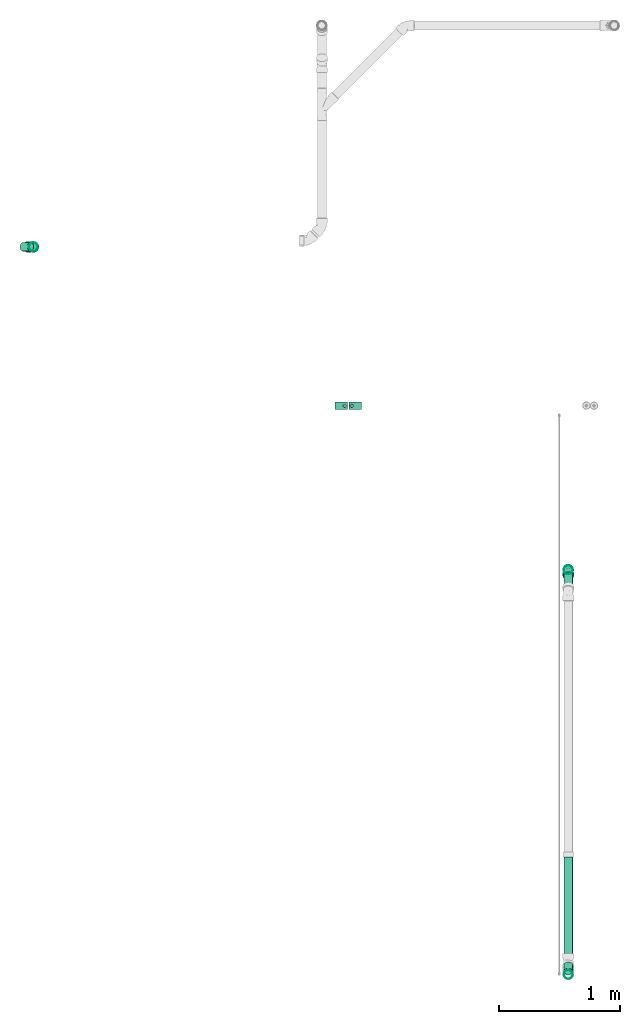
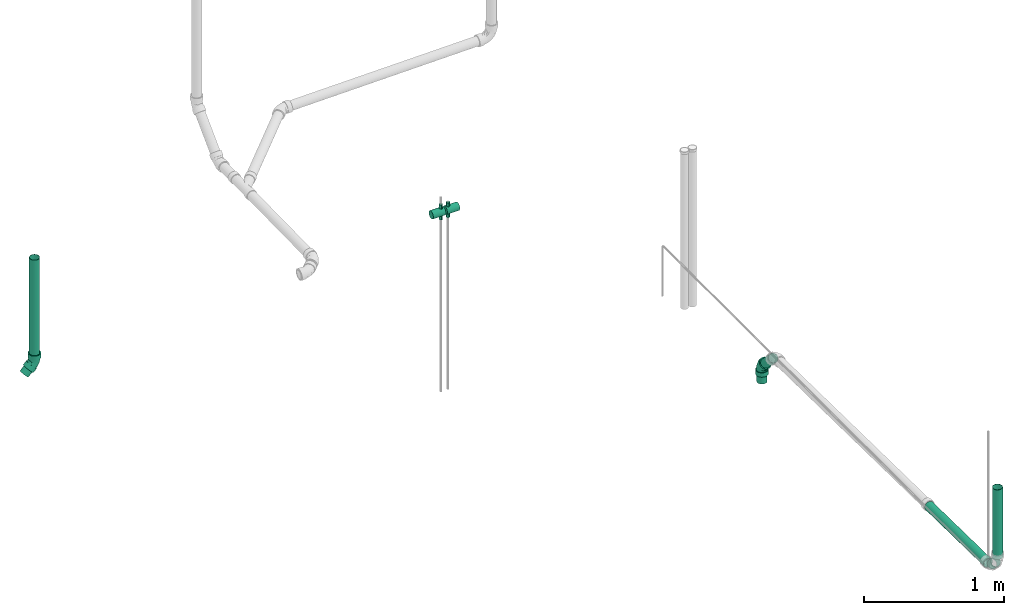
# One storey, part 7 of 18: 7 flow segments, 2 flow controllers, 2 flow fittings.
"""IFC2X3 building model written with IfcOpenShell, lengths in millimetres."""

from ifc_helpers import new_model, entity, si_unit, converted_unit, derived_unit, direction, frame, origin_with_axes, origin_2d_with_axis, place, context, subcontext, project, spatial, hollow_circle, extrude, open_shell, surface_model, source, transform, mapped, type_object, element, save


model = new_model("IFC2X3")

# Units and contexts
model_context = context("Model", 3, precision=0.01, world=frame((0.0, 4.29681676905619e-09, 0.0)), true_north=direction((4.01073788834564e-13, 1.0)))
plan_context = context("Plan", 3, precision=0.01, world=frame((0.0, 4.29681676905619e-09, 0.0)), true_north=direction((4.01073788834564e-13, 1.0)))
body_context = subcontext(model_context, "Body", "Model", "MODEL_VIEW")
ifc_project = project(units=[converted_unit("PLANEANGLEUNIT", "DEGREE", entity("IfcPositiveLengthMeasure", 0.0174532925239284), si_unit("PLANEANGLEUNIT", "RADIAN"), dimensions=[0, 0, 0, 0, 0, 0, 0]), si_unit("AREAUNIT", "SQUARE_METRE"), si_unit("LENGTHUNIT", "METRE", prefix="MILLI"), si_unit("MASSUNIT", "GRAM", prefix="KILO"), si_unit("POWERUNIT", "WATT"), si_unit("PRESSUREUNIT", "PASCAL", prefix="KILO"), si_unit("FORCEUNIT", "NEWTON", prefix="KILO"), si_unit("ELECTRICVOLTAGEUNIT", "VOLT"), si_unit("ELECTRICCURRENTUNIT", "AMPERE"), si_unit("THERMODYNAMICTEMPERATUREUNIT", "DEGREE_CELSIUS"), si_unit("TIMEUNIT", "SECOND"), si_unit("VOLUMEUNIT", "CUBIC_METRE"), derived_unit("LINEARVELOCITYUNIT", [(si_unit("LENGTHUNIT", "METRE"), 1), (si_unit("TIMEUNIT", "SECOND"), -1)]), derived_unit("VOLUMETRICFLOWRATEUNIT", [(si_unit("VOLUMEUNIT", "CUBIC_METRE"), 1), (si_unit("TIMEUNIT", "SECOND"), -1)]), derived_unit("THERMALTRANSMITTANCEUNIT", [(si_unit("POWERUNIT", "WATT"), 1), (si_unit("THERMODYNAMICTEMPERATUREUNIT", "KELVIN"), -1), (si_unit("AREAUNIT", "SQUARE_METRE"), -1)]), derived_unit("SOUNDPRESSUREUNIT", [(si_unit("PRESSUREUNIT", "PASCAL"), 1)])], contexts=[model_context, plan_context])

# Site, building, storey
site_placement = place(None, frame((0.0, -4.29681676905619e-09, 0.0), z_axis=(0.0, 0.0, 1.0), x_axis=(1.0, 0.0, 0.0)))
site = spatial("IfcSite", under=ifc_project, at=site_placement, Name="ENGM", CompositionType="ELEMENT")
building_placement = place(site_placement, frame((0.0, 4.29681676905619e-09, 0.0), z_axis=(0.0, 0.0, 1.0), x_axis=(1.0, 0.0, 0.0)))
building = spatial("IfcBuilding", under=site, at=building_placement, Name="TI", CompositionType="ELEMENT")
storey_placement = place(building_placement, frame((0.0, 0.0, 204000.0), z_axis=(0.0, 0.0, 1.0), x_axis=(1.0, 0.0, 0.0)))
storey = spatial("IfcBuildingStorey", under=building, at=storey_placement, Name="Nivå D", CompositionType="ELEMENT", Elevation=204000.0)

# Flow controllers
flow_meter_type = type_object("IfcFlowMeterType", Name="Water-flow-meter-DN20", PredefinedType="FLOWMETER")
shared_shape_1 = source(origin_with_axes(), body_context, "Body", "SurfaceModel", [
    surface_model("IfcShellBasedSurfaceModel", [(-16.25, 28.14582, 80.0), (0.0, 32.5, 80.0), (-8.41162, 31.39259, 80.0), (-31.39259, 8.41162, 80.0), (-22.98097, 22.98097, 80.0), (-28.14582, 16.25, 80.0), (16.25, 28.14582, 80.0), (8.41162, 31.39259, 80.0), (22.98097, 22.98097, 80.0), (31.39259, 8.41162, 80.0), (28.14582, 16.25, 80.0), (-16.25, -28.14582, 80.0), (-28.14582, -16.25, 80.0), (-22.98097, -22.98097, 80.0), (-28.14582, -16.25, -23.0), (-16.25, -28.14582, -23.0), (-22.98097, -22.98097, -23.0), (-22.98097, 22.98097, -23.0), (-31.39259, 8.41162, -23.0), (-28.14582, 16.25, -23.0), (16.25, 28.14582, -23.0), (22.98097, 22.98097, -23.0), (8.41162, 31.39259, -23.0), (0.0, 32.5, -23.0), (-8.41162, 31.39259, -23.0), (-16.25, 28.14582, -23.0), (-8.41162, -31.39259, -23.0), (-8.41162, -31.39259, 80.0), (0.0, -32.5, -23.0), (0.0, -32.5, 80.0), (8.41162, -31.39259, 80.0), (8.41162, -31.39259, -23.0), (16.25, -28.14582, -23.0), (22.98097, -22.98097, -23.0), (16.25, -28.14582, 80.0), (28.14582, -16.25, -23.0), (28.14582, -16.25, 80.0), (22.98097, -22.98097, 80.0), (65.0, 3.36465, -12.55704), (65.0, -3.36465, -12.55704), (65.0, 0.0, -13.0), (65.0, 9.19239, -9.19239), (65.0, 6.5, -11.25833), (65.0, 11.25833, -6.5), (65.0, -13.0, 0.0), (65.0, 12.55704, -3.36465), (65.0, -9.19239, -9.19239), (65.0, -6.5, -11.25833), (65.0, -11.25833, -6.5), (65.0, -12.55704, -3.36465), (65.0, 13.0, 0.0), (65.0, 12.55704, 3.36465), (65.0, -3.36465, 12.55704), (65.0, 3.36465, 12.55704), (65.0, 11.25833, 6.5), (65.0, 9.19239, 9.19239), (65.0, 6.5, 11.25833), (65.0, 0.0, 13.0), (65.0, -11.25833, 6.5), (65.0, -9.19239, 9.19239), (65.0, -12.55704, 3.36465), (65.0, -6.5, 11.25833), (-65.0, 0.0, 13.0), (-65.0, 3.36465, 12.55704), (-65.0, 6.5, 11.25833), (-65.0, -3.36465, 12.55704), (-65.0, 9.19239, 9.19239), (-65.0, 11.25833, 6.5), (-65.0, 12.55704, 3.36465), (-65.0, -9.19239, 9.19239), (-65.0, -6.5, 11.25833), (-65.0, -11.25833, 6.5), (-65.0, -13.0, 0.0), (-65.0, -12.55704, 3.36465), (-65.0, -11.25833, -6.5), (-65.0, 13.0, 0.0), (-65.0, 12.55704, -3.36465), (-65.0, 11.25833, -6.5), (-65.0, -3.36465, -12.55704), (-65.0, 6.5, -11.25833), (-65.0, 3.36465, -12.55704), (-65.0, 9.19239, -9.19239), (-65.0, -9.19239, -9.19239), (-65.0, -12.55704, -3.36465), (-65.0, -6.5, -11.25833), (-65.0, 0.0, -13.0), (-32.5, 0.0, 80.0), (-31.39259, -8.41162, 80.0), (31.39259, -8.41162, 80.0), (32.5, 0.0, 80.0), (28.14582, 16.25, -23.0), (31.39259, 8.41162, -23.0), (-32.5, 0.0, -23.0), (31.39259, -8.41162, -23.0), (-31.39259, -8.41162, -23.0), (32.5, 0.0, -23.0)], [open_shell([[[0, 1, 2]], [[3, 4, 5]], [[1, 6, 7]], [[8, 9, 10]], [[11, 12, 13]], [[14, 15, 16]], [[17, 18, 19]], [[20, 8, 21]], [[22, 7, 6]], [[23, 1, 7]], [[2, 24, 25]], [[17, 0, 25]], [[24, 2, 1]], [[25, 0, 2]], [[19, 5, 4]], [[24, 1, 23]], [[26, 27, 11]], [[28, 29, 27]], [[30, 31, 32]], [[33, 34, 32]], [[31, 30, 29]], [[32, 34, 30]], [[35, 36, 37]], [[31, 29, 28]], [[38, 39, 40]], [[41, 38, 42]], [[39, 38, 43]], [[43, 38, 41]], [[44, 43, 45]], [[39, 46, 47]], [[46, 39, 48]], [[48, 44, 49]], [[48, 39, 43]], [[43, 44, 48]], [[45, 50, 44]], [[51, 52, 50]], [[53, 51, 54]], [[55, 56, 53]], [[55, 53, 54]], [[57, 51, 53]], [[58, 52, 59]], [[60, 44, 58]], [[59, 52, 61]], [[44, 52, 58]], [[57, 52, 51]], [[44, 50, 52]], [[62, 63, 64]], [[65, 62, 64]], [[66, 67, 68]], [[64, 66, 65]], [[68, 65, 66]], [[65, 69, 70]], [[69, 65, 71]], [[71, 72, 73]], [[71, 65, 68]], [[71, 74, 72]], [[71, 68, 75]], [[75, 76, 77]], [[78, 75, 77]], [[79, 80, 77]], [[79, 77, 81]], [[78, 77, 80]], [[74, 78, 82]], [[83, 72, 74]], [[82, 78, 84]], [[71, 78, 74]], [[85, 78, 80]], [[71, 75, 78]], [[49, 83, 74]], [[82, 48, 74]], [[47, 84, 78]], [[82, 84, 46]], [[39, 78, 85]], [[83, 44, 72]], [[83, 49, 44]], [[74, 48, 49]], [[82, 46, 48]], [[47, 46, 84]], [[78, 39, 47]], [[85, 40, 39]], [[38, 80, 79]], [[81, 42, 79]], [[43, 77, 76]], [[81, 77, 41]], [[45, 76, 75]], [[80, 38, 40]], [[79, 42, 38]], [[81, 41, 42]], [[77, 43, 41]], [[45, 43, 76]], [[75, 50, 45]], [[80, 40, 85]], [[54, 67, 66]], [[56, 64, 63]], [[66, 64, 55]], [[53, 63, 62]], [[50, 68, 51]], [[68, 50, 75]], [[51, 68, 54]], [[68, 67, 54]], [[66, 55, 54]], [[56, 55, 64]], [[63, 53, 56]], [[62, 57, 53]], [[52, 65, 70]], [[69, 61, 70]], [[58, 71, 73]], [[69, 71, 59]], [[60, 73, 72]], [[65, 52, 57]], [[70, 61, 52]], [[69, 59, 61]], [[71, 58, 59]], [[60, 58, 73]], [[72, 44, 60]], [[65, 57, 62]], [[30, 27, 29]], [[36, 30, 34]], [[27, 30, 36]], [[36, 34, 37]], [[9, 11, 36]], [[11, 27, 36]], [[12, 86, 87]], [[3, 86, 12]], [[12, 11, 3]], [[9, 36, 88]], [[3, 11, 9]], [[3, 9, 6]], [[6, 9, 8]], [[4, 3, 1]], [[1, 0, 4]], [[3, 6, 1]], [[9, 88, 89]], [[23, 22, 20]], [[23, 20, 90]], [[90, 91, 23]], [[90, 20, 21]], [[23, 91, 18]], [[23, 17, 25]], [[25, 24, 23]], [[18, 17, 23]], [[18, 14, 92]], [[18, 91, 15]], [[15, 91, 93]], [[35, 26, 93]], [[32, 31, 35]], [[32, 35, 33]], [[31, 26, 35]], [[94, 92, 14]], [[14, 18, 15]], [[93, 26, 15]], [[31, 28, 26]], [[95, 93, 91]], [[87, 94, 14]], [[16, 12, 14]], [[11, 15, 26]], [[16, 15, 13]], [[27, 26, 28]], [[94, 86, 92]], [[94, 87, 86]], [[14, 12, 87]], [[16, 13, 12]], [[11, 13, 15]], [[36, 35, 93]], [[33, 35, 37]], [[88, 93, 95]], [[33, 37, 34]], [[88, 36, 93]], [[95, 89, 88]], [[95, 91, 9]], [[6, 20, 22]], [[7, 22, 23]], [[9, 90, 10]], [[9, 89, 95]], [[90, 8, 10]], [[90, 21, 8]], [[8, 20, 6]], [[91, 90, 9]], [[5, 19, 18]], [[17, 19, 4]], [[3, 18, 92]], [[17, 4, 0]], [[3, 5, 18]], [[92, 86, 3]]])]),
])
for number, where, z_axis, x_axis, name in (
    (1, (591223.82673, 574995.92031, 7210.24650000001), (1.0, 0.0, 0.0), (0.0, 0.0, 1.0), "Water-flow-meter-DN20"),
    (2, (591165.27303, 574995.92031, 7210.24650000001), (-1.0, 0.0, 0.0), (0.0, 0.0, 1.0), "Water-flow-meter-DN20"),
):
    element("IfcFlowController", number, at=place(storey_placement, frame(where, z_axis=z_axis, x_axis=x_axis)), inside=storey, type_object=flow_meter_type, Name=name, context=body_context, shape_type="MappedRepresentation", body=[
        mapped(shared_shape_1, transform((0.0, 0.0, 0.0), scale=1.0)),
    ])

# Flow fittings
pipe_fitting_type = type_object("IfcPipeFittingType", Name="magi_sewer_bend_001", PredefinedType="BEND")
shared_shape_2 = source(origin_with_axes(), body_context, "Body", "SurfaceModel", [
    surface_model("IfcShellBasedSurfaceModel", [(-71.67262, -44.67407, -11.97038), (-71.67262, -11.97038, -44.67407), (-71.67262, -23.125, -40.05367), (-71.67262, -32.70369, -32.70369), (-71.67262, 0.0, -46.25), (-71.67262, -40.05367, -23.125), (-71.67262, -46.25, 0.0), (-71.67262, 11.97038, -44.67407), (-71.67262, 32.70369, -32.70369), (-71.67262, 23.125, -40.05367), (-71.67262, 44.67407, -11.97038), (-71.67262, 40.05367, -23.125), (-71.67262, -32.70369, 32.70369), (-71.67262, -44.67407, 11.97038), (-71.67262, -40.05367, 23.125), (-71.67262, 40.05367, 23.125), (-71.67262, -23.125, 40.05367), (-71.67262, -11.97038, 44.67407), (-71.67262, 0.0, 46.25), (-71.67262, 11.97038, 44.67407), (-71.67262, 44.67407, 11.97038), (-71.67262, 46.25, 0.0), (-71.67262, 23.125, 40.05367), (-71.67262, 32.70369, 32.70369), (-34.17262, 0.0, 46.25), (-34.17262, -11.97038, 44.67407), (-34.17262, -23.125, 40.05367), (-34.17262, -32.70369, 32.70369), (-34.17262, -40.05367, 23.125), (-34.17262, -44.67407, 11.97038), (-34.17262, 40.05367, 23.125), (-34.17262, -44.67407, -11.97038), (-34.17262, 23.125, 40.05367), (-34.17262, 32.70369, 32.70369), (-34.17262, 11.97038, 44.67407), (-34.17262, 44.67407, 11.97038), (-34.17262, 44.67407, -11.97038), (-34.17262, 46.25, 0.0), (-34.17262, -32.70369, -32.70369), (-34.17262, -40.05367, -23.125), (-34.17262, -23.125, -40.05367), (-34.17262, -11.97038, -44.67407), (-34.17262, 11.97038, -44.67407), (-34.17262, 32.70369, -32.70369), (-34.17262, 40.05367, -23.125), (-34.17262, 23.125, -40.05367), (-34.17262, 0.0, -46.25), (-34.17262, -46.25, 0.0), (22.35797, 79.00242, 23.125), (17.97651, 83.38388, 0.0), (19.09086, 82.26953, 11.97038), (34.32835, 67.03204, 40.05367), (27.55519, 73.8052, 32.70369), (42.21586, 59.14453, -44.67407), (67.03204, 34.32835, -40.05367), (42.21586, 59.14453, 44.67407), (19.09086, 82.26953, -11.97038), (27.55519, 73.8052, -32.70369), (22.35797, 79.00242, -23.125), (34.32835, 67.03204, -40.05367), (50.6802, 50.6802, 46.25), (59.14453, 42.21586, 44.67407), (67.03204, 34.32835, 40.05367), (73.8052, 27.55519, 32.70369), (79.00242, 22.35797, 23.125), (82.26953, 19.09086, 11.97038), (83.38388, 17.97651, 0.0), (59.14453, 42.21586, -44.67407), (50.6802, 50.6802, -46.25), (73.8052, 27.55519, -32.70369), (82.26953, 19.09086, -11.97038), (79.00242, 22.35797, -23.125), (40.51554, 7.81185, -40.05367), (56.86738, -8.54, 0.0), (55.75303, -7.42565, 11.97038), (52.48592, -4.15853, 23.125), (47.28869, 1.03869, 32.70369), (40.51554, 7.81185, 40.05367), (32.62803, 15.69935, 44.67407), (15.69935, 32.62803, 44.67407), (52.48592, -4.15853, -23.125), (47.28869, 1.03869, -32.70369), (55.75303, -7.42565, -11.97038), (32.62803, 15.69935, -44.67407), (15.69935, 32.62803, -44.67407), (24.16369, 24.16369, -46.25), (-7.42565, 55.75303, 11.97038), (7.81185, 40.51554, 40.05367), (-4.15853, 52.48592, 23.125), (1.03869, 47.28869, 32.70369), (-7.42565, 55.75303, -11.97038), (1.03869, 47.28869, -32.70369), (7.81185, 40.51554, -40.05367), (-4.15853, 52.48592, -23.125), (-8.54, 56.86738, 0.0), (24.16369, 24.16369, 46.25), (-34.17262, 10.67629, -39.84444), (-34.17262, 0.0, -41.25), (-34.17262, 35.72355, -20.625), (-34.17262, 20.625, -35.72355), (-34.17262, -10.67629, -39.84444), (-34.17262, 29.16816, -29.16816), (-34.17262, 39.84444, -10.67629), (-34.17262, -29.16816, -29.16816), (-34.17262, -35.72355, -20.625), (-34.17262, -20.625, -35.72355), (-34.17262, -39.84444, -10.67629), (-34.17262, -41.25, 0.0), (-34.17262, -39.84444, 10.67629), (-34.17262, 41.25, 0.0), (-34.17262, 35.72355, 20.625), (-34.17262, 39.84444, 10.67629), (-34.17262, 10.67629, 39.84444), (-34.17262, 20.625, 35.72355), (-34.17262, 29.16816, 29.16816), (-34.17262, -35.72355, 20.625), (-34.17262, -29.16816, 29.16816), (-34.17262, -10.67629, 39.84444), (-34.17262, -20.625, 35.72355), (-34.17262, 0.0, 41.25), (16.61442, 31.71296, -39.84444), (52.33797, -4.01058, -10.67629), (24.16369, 24.16369, -41.25), (9.57961, 38.74777, -35.72355), (3.53869, 44.78869, -29.16816), (-1.09667, 49.42405, -20.625), (-4.01058, 52.33797, -10.67629), (52.33797, -4.01058, 10.67629), (38.74777, 9.57961, -35.72355), (49.42405, -1.09667, -20.625), (44.78869, 3.53869, -29.16816), (31.71296, 16.61442, -39.84444), (53.33185, -5.00446, 0.0), (3.53869, 44.78869, 29.16816), (-5.00446, 53.33185, 0.0), (-4.01058, 52.33797, 10.67629), (-1.09667, 49.42405, 20.625), (9.57961, 38.74777, 35.72355), (16.61442, 31.71296, 39.84444), (24.16369, 24.16369, 41.25), (44.78869, 3.53869, 29.16816), (49.42405, -1.09667, 20.625), (31.71296, 16.61442, 39.84444), (38.74777, 9.57961, 35.72355), (10.50612, -25.36402, 22.98738), (-9.12592, -23.31355, 31.83011), (-13.32012, -31.54844, 24.15346), (-13.78242, -38.56558, 0.0), (-2.14376, -37.03332, 0.0), (-8.80455, -38.00287, 7.04384), (31.72686, -12.88936, 24.15346), (-16.3448, -15.12603, 37.70038), (4.23545, -10.22528, 37.18064), (1.2244, 24.79863, 38.50101), (7.45704, 19.5259, 40.65003), (-12.31128, -3.97165, 40.70351), (-3.92344, 9.47201, 41.10505), (-20.66814, 5.71607, 40.99967), (-11.71714, 28.28769, 33.67672), (-18.19114, 34.59421, 26.03152), (22.25324, 0.8618, 37.70038), (-15.84955, 17.16525, 38.56294), (15.91914, -26.99759, 16.25694), (-7.39626, -35.6875, 14.32507), (12.80708, -30.91902, 8.96571), (-16.99315, 41.02508, 16.94728), (33.09785, -20.64633, 7.04384), (37.01562, -17.52434, 0.0), (-16.52245, 44.20054, 8.66711), (30.46482, -20.00493, 14.32507), (11.51377, 5.89701, 40.70351), (22.93817, -10.03217, 31.83011), (-18.38693, 44.38997, 0.0), (6.92373, -16.71536, 32.89459), (12.77931, -30.85198, 0.0), (27.70238, -24.67064, 0.0), (-12.31128, -3.97165, -40.70351), (-8.80455, -38.00287, -7.04384), (12.80708, -30.91902, -8.96571), (11.51377, 5.89701, -40.70351), (-18.40106, 16.66949, -38.50101), (-19.07982, 8.53397, -40.65003), (-11.59873, 37.32487, -26.03152), (22.93817, -10.03217, -31.83011), (-16.99315, 41.02508, -16.94728), (30.46482, -20.00492, -14.32507), (-19.57136, 42.93764, -8.66711), (-0.93034, 23.34499, -38.56294), (-7.39626, -35.6875, -14.32507), (-11.71715, 28.28769, -33.67672), (-13.32012, -31.54844, -24.15346), (-9.12592, -23.31355, -31.83011), (6.92373, -16.71536, -32.89459), (10.50612, -25.36402, -22.98737), (-16.3448, -15.12603, -37.70038), (22.25324, 0.8618, -37.70038), (4.23545, -10.22528, -37.18064), (33.09785, -20.64633, -7.04384), (10.57272, 18.65645, -40.99967), (7.83365, -30.34671, -16.25694), (31.72686, -12.88936, -24.15346), (-3.92344, 9.47201, -41.10505)], [open_shell([[[0, 1, 2]], [[0, 2, 3]], [[1, 0, 4]], [[0, 3, 5]], [[4, 0, 6]], [[7, 8, 9]], [[8, 7, 4]], [[8, 10, 11]], [[10, 8, 4]], [[4, 6, 10]], [[6, 12, 10]], [[13, 14, 12]], [[10, 12, 15]], [[16, 17, 18]], [[16, 18, 12]], [[19, 12, 18]], [[10, 20, 21]], [[15, 20, 10]], [[15, 22, 23]], [[22, 15, 19]], [[12, 19, 15]], [[6, 13, 12]], [[24, 25, 26]], [[24, 26, 27]], [[27, 28, 29]], [[24, 27, 30]], [[27, 31, 30]], [[32, 30, 33]], [[30, 32, 34]], [[35, 36, 37]], [[30, 34, 24]], [[35, 30, 36]], [[27, 29, 31]], [[36, 30, 31]], [[38, 31, 39]], [[40, 41, 31]], [[40, 31, 38]], [[42, 31, 41]], [[36, 43, 44]], [[36, 31, 43]], [[43, 42, 45]], [[31, 42, 43]], [[41, 46, 42]], [[31, 29, 47]], [[36, 10, 37]], [[44, 11, 36]], [[9, 43, 45]], [[44, 43, 8]], [[7, 45, 42]], [[36, 11, 10]], [[10, 21, 37]], [[7, 9, 45]], [[8, 43, 9]], [[8, 11, 44]], [[4, 7, 42]], [[42, 46, 4]], [[46, 41, 1]], [[5, 39, 31]], [[39, 3, 38]], [[0, 31, 47]], [[1, 40, 2]], [[40, 1, 41]], [[40, 38, 2]], [[38, 3, 2]], [[39, 5, 3]], [[0, 5, 31]], [[47, 6, 0]], [[46, 1, 4]], [[29, 13, 47]], [[28, 14, 29]], [[16, 27, 26]], [[28, 27, 12]], [[17, 26, 25]], [[29, 14, 13]], [[13, 6, 47]], [[17, 16, 26]], [[12, 27, 16]], [[12, 14, 28]], [[18, 17, 25]], [[25, 24, 18]], [[33, 22, 32]], [[35, 15, 30]], [[33, 30, 23]], [[20, 35, 37]], [[32, 19, 34]], [[32, 22, 19]], [[19, 18, 34]], [[33, 23, 22]], [[30, 15, 23]], [[20, 15, 35]], [[37, 21, 20]], [[34, 18, 24]], [[48, 49, 50]], [[51, 48, 52]], [[53, 48, 54]], [[55, 48, 51]], [[48, 55, 54]], [[56, 57, 58]], [[56, 49, 48]], [[57, 53, 59]], [[53, 57, 56]], [[48, 53, 56]], [[55, 60, 61]], [[61, 62, 63]], [[63, 64, 55]], [[54, 64, 65]], [[55, 64, 54]], [[66, 54, 65]], [[53, 67, 68]], [[54, 67, 53]], [[69, 70, 71]], [[70, 69, 54]], [[66, 70, 54]], [[55, 61, 63]], [[72, 73, 74]], [[75, 72, 74]], [[76, 77, 78]], [[79, 72, 75]], [[76, 79, 75]], [[80, 72, 81]], [[72, 80, 82]], [[83, 84, 85]], [[72, 82, 73]], [[83, 72, 84]], [[79, 76, 78]], [[84, 72, 79]], [[86, 79, 87]], [[88, 86, 87]], [[88, 87, 89]], [[90, 79, 86]], [[84, 91, 92]], [[91, 84, 90]], [[91, 90, 93]], [[84, 79, 90]], [[86, 94, 90]], [[79, 78, 95]], [[84, 53, 85]], [[92, 59, 84]], [[58, 91, 93]], [[92, 91, 57]], [[56, 93, 90]], [[84, 59, 53]], [[53, 68, 85]], [[56, 58, 93]], [[57, 91, 58]], [[57, 59, 92]], [[49, 56, 90]], [[90, 94, 49]], [[94, 86, 50]], [[51, 87, 79]], [[87, 52, 89]], [[55, 79, 95]], [[50, 88, 48]], [[88, 50, 86]], [[88, 89, 48]], [[89, 52, 48]], [[87, 51, 52]], [[55, 51, 79]], [[95, 60, 55]], [[94, 50, 49]], [[78, 61, 95]], [[77, 62, 78]], [[64, 76, 75]], [[77, 76, 63]], [[65, 75, 74]], [[78, 62, 61]], [[61, 60, 95]], [[65, 64, 75]], [[63, 76, 64]], [[63, 62, 77]], [[66, 65, 74]], [[74, 73, 66]], [[81, 71, 80]], [[83, 54, 72]], [[81, 72, 69]], [[67, 83, 85]], [[80, 70, 82]], [[80, 71, 70]], [[70, 66, 82]], [[81, 69, 71]], [[72, 54, 69]], [[67, 54, 83]], [[85, 68, 67]], [[82, 66, 73]], [[96, 97, 98]], [[99, 96, 98]], [[100, 98, 97]], [[101, 99, 98]], [[102, 98, 100]], [[103, 104, 105]], [[100, 105, 104]], [[104, 106, 100]], [[106, 102, 100]], [[107, 108, 106]], [[109, 102, 106]], [[110, 111, 109]], [[108, 110, 106]], [[112, 113, 114]], [[108, 114, 110]], [[114, 108, 112]], [[115, 116, 108]], [[117, 108, 116]], [[118, 117, 116]], [[117, 112, 108]], [[117, 119, 112]], [[109, 106, 110]], [[120, 121, 122]], [[123, 121, 120]], [[124, 125, 126]], [[121, 123, 127]], [[127, 123, 124]], [[128, 129, 130]], [[128, 131, 122]], [[128, 121, 129]], [[122, 121, 128]], [[121, 127, 132]], [[133, 124, 126]], [[134, 135, 136]], [[134, 136, 133]], [[133, 137, 138]], [[133, 127, 124]], [[139, 133, 138]], [[127, 140, 141]], [[140, 127, 142]], [[140, 142, 143]], [[142, 127, 139]], [[127, 133, 139]], [[133, 126, 134]], [[144, 145, 146]], [[147, 148, 149]], [[118, 116, 145]], [[141, 140, 150]], [[151, 145, 152]], [[146, 145, 116]], [[138, 153, 154]], [[117, 118, 151]], [[155, 156, 157]], [[119, 117, 155]], [[114, 158, 159]], [[143, 142, 160]], [[157, 112, 119]], [[113, 161, 158]], [[108, 147, 149]], [[137, 133, 158]], [[162, 163, 164]], [[158, 114, 113]], [[116, 115, 146]], [[110, 159, 165]], [[111, 110, 165]], [[127, 166, 167]], [[168, 109, 111]], [[169, 162, 164]], [[163, 149, 164]], [[113, 112, 161]], [[139, 154, 170]], [[140, 143, 171]], [[136, 135, 165]], [[170, 142, 139]], [[144, 146, 163]], [[140, 171, 150]], [[156, 154, 153]], [[171, 143, 160]], [[115, 163, 146]], [[166, 127, 169]], [[144, 150, 171]], [[157, 161, 112]], [[144, 162, 150]], [[111, 165, 168]], [[115, 108, 163]], [[172, 168, 134]], [[145, 173, 152]], [[135, 168, 165]], [[152, 170, 155]], [[136, 165, 159]], [[152, 160, 170]], [[136, 159, 133]], [[156, 155, 170]], [[138, 137, 153]], [[153, 158, 161]], [[151, 155, 117]], [[110, 114, 159]], [[169, 127, 141]], [[169, 141, 150]], [[173, 144, 171]], [[133, 159, 158]], [[158, 153, 137]], [[156, 153, 161]], [[145, 151, 118]], [[155, 151, 152]], [[170, 160, 142]], [[171, 160, 152]], [[108, 107, 147]], [[164, 148, 174]], [[108, 149, 163]], [[148, 164, 149]], [[166, 164, 175]], [[167, 166, 175]], [[167, 132, 127]], [[164, 166, 169]], [[170, 154, 156]], [[139, 138, 154]], [[155, 157, 119]], [[161, 157, 156]], [[144, 173, 145]], [[171, 152, 173]], [[134, 168, 135]], [[168, 172, 109]], [[150, 162, 169]], [[163, 162, 144]], [[175, 164, 174]], [[100, 97, 176]], [[148, 177, 178]], [[122, 131, 179]], [[180, 181, 96]], [[98, 182, 101]], [[128, 130, 183]], [[184, 182, 98]], [[129, 121, 185]], [[102, 186, 184]], [[123, 120, 187]], [[106, 177, 147]], [[99, 180, 96]], [[177, 106, 188]], [[124, 189, 182]], [[188, 104, 190]], [[190, 103, 191]], [[103, 105, 191]], [[192, 193, 191]], [[106, 104, 188]], [[103, 190, 104]], [[194, 105, 100]], [[195, 179, 131]], [[126, 125, 184]], [[196, 194, 176]], [[109, 172, 186]], [[193, 190, 191]], [[134, 126, 186]], [[196, 176, 179]], [[124, 123, 189]], [[184, 98, 102]], [[125, 182, 184]], [[194, 191, 105]], [[187, 189, 123]], [[181, 176, 97]], [[189, 187, 180]], [[101, 189, 99]], [[121, 167, 197]], [[198, 120, 122]], [[195, 131, 128]], [[199, 185, 178]], [[130, 200, 183]], [[196, 195, 183]], [[130, 129, 200]], [[201, 198, 179]], [[200, 193, 183]], [[201, 179, 176]], [[197, 167, 175]], [[198, 187, 120]], [[201, 181, 180]], [[177, 188, 178]], [[193, 199, 190]], [[183, 192, 196]], [[129, 185, 200]], [[126, 184, 186]], [[193, 200, 185]], [[125, 124, 182]], [[101, 182, 189]], [[189, 180, 99]], [[201, 180, 187]], [[176, 194, 100]], [[191, 194, 196]], [[183, 195, 128]], [[179, 195, 196]], [[147, 177, 148]], [[147, 107, 106]], [[199, 178, 188]], [[197, 178, 185]], [[178, 175, 174]], [[121, 132, 167]], [[178, 197, 175]], [[121, 197, 185]], [[176, 181, 201]], [[97, 96, 181]], [[179, 198, 122]], [[187, 198, 201]], [[193, 192, 183]], [[191, 196, 192]], [[109, 186, 102]], [[186, 172, 134]], [[190, 199, 188]], [[185, 199, 193]], [[148, 178, 174]]])]),
])
for number, where, z_axis, x_axis, name in (
    (3, (593020.37788, 573635.79475, 6049.62275000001), (1.0, 0.0, 0.0), (0.0, 0.0, 1.0), "magi_sewer_bend_001"),
    (4, (588584.84459, 576313.94619, 6018.13854000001), (0.0, 1.0, 0.0), (0.0, 0.0, -1.0), "magi_sewer_bend_001"),
):
    element("IfcFlowFitting", number, at=place(storey_placement, frame(where, z_axis=z_axis, x_axis=x_axis)), inside=storey, type_object=pipe_fitting_type, Name=name, context=body_context, shape_type="MappedRepresentation", body=[
        mapped(shared_shape_2, transform((0.0, 0.0, 0.0), scale=1.0)),
    ])

# Flow segments
pipe_segment_type = type_object("IfcPipeSegmentType", Name="MA", PredefinedType="RIGIDSEGMENT")
shared_shape_3 = source(origin_with_axes(), body_context, "Body", "SweptSolid", [
    extrude(hollow_circle(Radius=37.5, WallThickness=2.0, at=origin_2d_with_axis()), frame((0.0, 0.0, 0.0), z_axis=(1.0, 0.0, 0.0), x_axis=(0.0, 1.0, 0.0)), (0.0, 0.0, 1.0), 103.3),
])
flow_segment_1_placement = place(storey_placement, frame((593020.37788, 573635.79475, 5912.12450999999), z_axis=(-1.0, 0.0, 0.0), x_axis=(0.0, 0.0, 1.0)))
element("IfcFlowSegment", 5, at=flow_segment_1_placement, inside=storey, type_object=pipe_segment_type, Name="MA", context=body_context, shape_type="MappedRepresentation", body=[
    mapped(shared_shape_3, transform((0.0, 0.0, 0.0), scale=1.0)),
])
shared_shape_4 = source(origin_with_axes(), body_context, "Body", "SweptSolid", [
    extrude(hollow_circle(Radius=37.5, WallThickness=2.0, at=origin_2d_with_axis()), frame((0.0, 0.0, 0.0), z_axis=(1.0, 0.0, 0.0), x_axis=(0.0, 1.0, 0.0)), (0.0, 0.0, 1.0), 194.7),
])
flow_segment_2_placement = place(storey_placement, frame((593020.37788, 573611.63106, 6073.78644), z_axis=(0.0, 0.707106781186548, 0.707106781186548), x_axis=(0.0, -0.707106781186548, 0.707106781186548)))
element("IfcFlowSegment", 6, at=flow_segment_2_placement, inside=storey, type_object=pipe_segment_type, Name="MA", context=body_context, shape_type="MappedRepresentation", body=[
    mapped(shared_shape_4, transform((0.0, 0.0, 0.0), scale=1.0)),
])
shared_shape_5 = source(origin_with_axes(), body_context, "Body", "SweptSolid", [
    extrude(hollow_circle(Radius=37.5, WallThickness=2.0, at=origin_2d_with_axis()), frame((0.0, 0.0, 0.0), z_axis=(1.0, 0.0, 0.0), x_axis=(0.0, 1.0, 0.0)), (0.0, 0.0, 1.0), 840.0),
])
flow_segment_3_placement = place(storey_placement, frame((593020.37788, 571255.0844, 6271.64629), z_axis=(-3.30872245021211e-24, 0.0166640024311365, 0.999861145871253), x_axis=(1.00000011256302e-06, -0.999861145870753, 0.0166640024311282)))
element("IfcFlowSegment", 7, at=flow_segment_3_placement, inside=storey, type_object=pipe_segment_type, Name="MA", context=body_context, shape_type="MappedRepresentation", body=[
    mapped(shared_shape_5, transform((0.0, 0.0, 0.0), scale=1.0)),
])
shared_shape_6 = source(origin_with_axes(), body_context, "Body", "SweptSolid", [
    extrude(hollow_circle(Radius=37.5, WallThickness=2.0, at=origin_2d_with_axis()), frame((0.0, 0.0, 0.0), z_axis=(1.0, 0.0, 0.0), x_axis=(0.0, 1.0, 0.0)), (0.0, 0.0, 1.0), 75.2),
])
flow_segment_4_placement = place(storey_placement, frame((593020.37788, 570358.11027, 6309.92614), z_axis=(0.0, 0.707798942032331, 0.70641394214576), x_axis=(0.0, -0.70641394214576, 0.707798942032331)))
element("IfcFlowSegment", 8, at=flow_segment_4_placement, inside=storey, type_object=pipe_segment_type, Name="MA", context=body_context, shape_type="MappedRepresentation", body=[
    mapped(shared_shape_6, transform((0.0, 0.0, 0.0), scale=1.0)),
])
shared_shape_7 = source(origin_with_axes(), body_context, "Body", "SweptSolid", [
    extrude(hollow_circle(Radius=37.5, WallThickness=2.0, at=origin_2d_with_axis()), frame((0.0, 0.0, 0.0), z_axis=(1.0, 0.0, 0.0), x_axis=(0.0, 1.0, 0.0)), (0.0, 0.0, 1.0), 605.6),
])
flow_segment_5_placement = place(storey_placement, frame((593020.37788, 570280.85752, 6421.30465999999), z_axis=(-1.0, 0.0, 0.0), x_axis=(0.0, 0.0, 1.0)))
element("IfcFlowSegment", 9, at=flow_segment_5_placement, inside=storey, type_object=pipe_segment_type, Name="MA", context=body_context, shape_type="MappedRepresentation", body=[
    mapped(shared_shape_7, transform((0.0, 0.0, 0.0), scale=1.0)),
])
shared_shape_8 = source(origin_with_axes(), body_context, "Body", "SweptSolid", [
    extrude(hollow_circle(Radius=37.5, WallThickness=2.0, at=origin_2d_with_axis()), frame((0.0, 0.0, 0.0), z_axis=(1.0, 0.0, 0.0), x_axis=(0.0, 1.0, 0.0)), (0.0, 0.0, 1.0), 866.0),
])
flow_segment_6_placement = place(storey_placement, frame((588584.84459, 576313.94619, 6918.28654999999), z_axis=(0.707106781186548, -0.707106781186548, 0.0), x_axis=(0.0, 0.0, -1.0)))
element("IfcFlowSegment", 10, at=flow_segment_6_placement, inside=storey, type_object=pipe_segment_type, Name="MA", context=body_context, shape_type="MappedRepresentation", body=[
    mapped(shared_shape_8, transform((0.0, 0.0, 0.0), scale=1.0)),
])
shared_shape_9 = source(origin_with_axes(), body_context, "Body", "SweptSolid", [
    extrude(hollow_circle(Radius=37.5, WallThickness=2.0, at=origin_2d_with_axis()), frame((0.0, 0.0, 0.0), z_axis=(1.0, 0.0, 0.0), x_axis=(0.0, 1.0, 0.0)), (0.0, 0.0, 1.0), 85.8),
])
flow_segment_7_placement = place(storey_placement, frame((588560.6809, 576313.94619, 5993.97485), z_axis=(-0.707106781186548, 0.0, 0.707106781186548), x_axis=(-0.707106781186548, 0.0, -0.707106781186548)))
element("IfcFlowSegment", 11, at=flow_segment_7_placement, inside=storey, type_object=pipe_segment_type, Name="MA", context=body_context, shape_type="MappedRepresentation", body=[
    mapped(shared_shape_9, transform((0.0, 0.0, 0.0), scale=1.0)),
])

save(model, "model.ifc")
